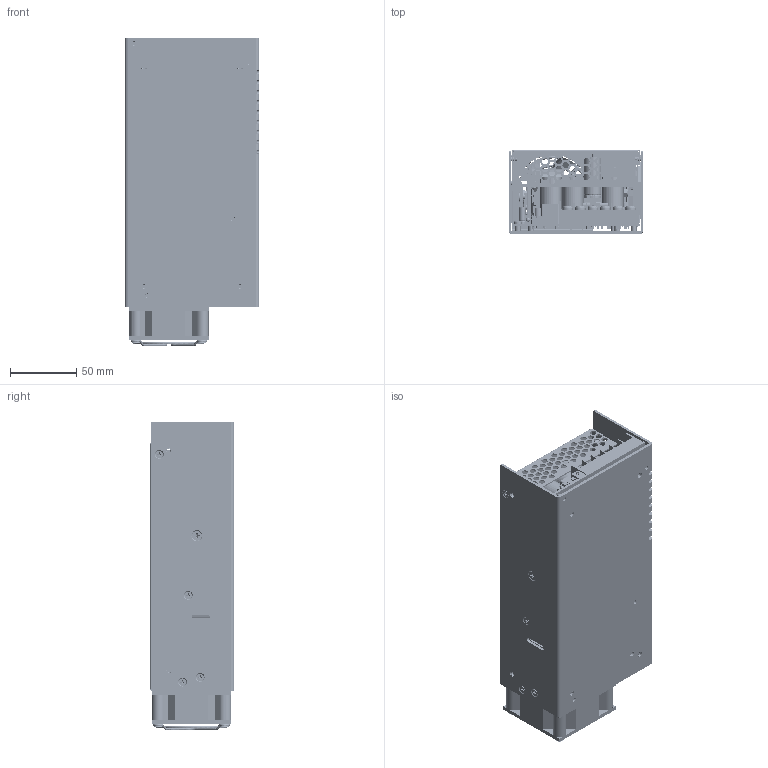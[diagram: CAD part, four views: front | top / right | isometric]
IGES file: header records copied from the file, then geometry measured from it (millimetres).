
Start section: SolidWorks IGES file using analytic representation for surfaces
Global section: file name: C:\RnD\PRODUCT\SHP650\SOLIDWORKS\3DFILE\SHP650PSXX-EF IGES.IGS; native system: SolidWorks 2010; preprocessor: SolidWorks 2010; author: Leonard Torio; date: 101101.185140; units: millimetre
Bounding box: 101.6 x 63.5 x 233.2 mm (x, y, z)
Surface area: 465790.8 mm2 (no closed solid volume)
Topology: 0 solids, 0 shells, 7352 faces, 65996 edges, 65928 vertices
Faces by surface type: bspline 5265, revolution 2087
